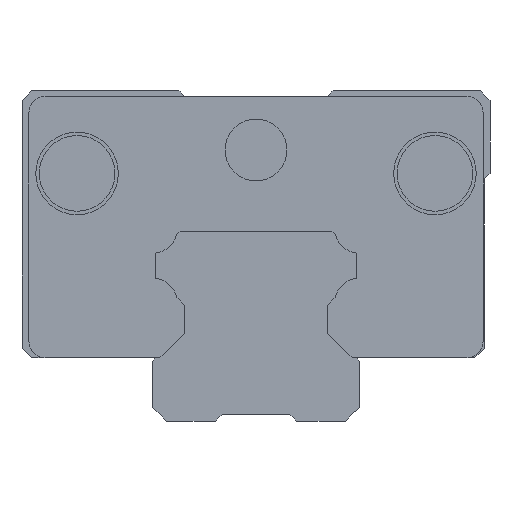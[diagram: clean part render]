
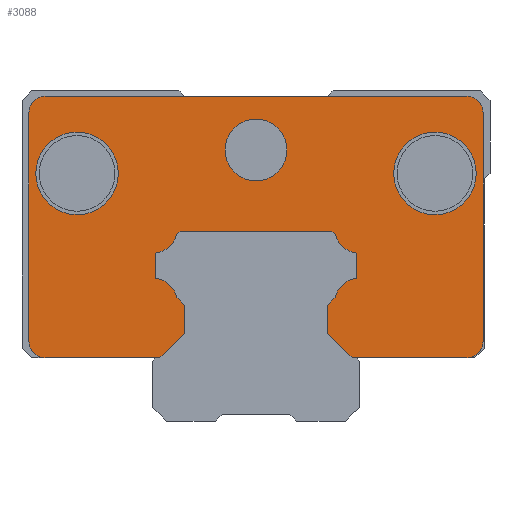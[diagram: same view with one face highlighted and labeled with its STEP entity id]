
A CAD part, left-side view. The second image highlights one B-rep face of the part: STEP entity #3088.
In plain terms, the highlighted planar face has unit normal (-1, 0, 0).
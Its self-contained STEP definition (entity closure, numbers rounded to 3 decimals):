
#2743=CARTESIAN_POINT('',(0.0,-10.0,18.));
#2744=VERTEX_POINT('',#2743);
#2745=CARTESIAN_POINT('',(0.0,-13.0,18.));
#2746=DIRECTION('',(1.0,0.0,0.0));
#2747=DIRECTION('',(0.0,-1.0,0.0));
#2748=AXIS2_PLACEMENT_3D('',#2745,#2746,#2747);
#2749=CIRCLE('',#2748,3.);
#2750=EDGE_CURVE('',#2744,#2744,#2749,.T.);
#2783=CARTESIAN_POINT('',(0.0,2.25,19.7));
#2784=VERTEX_POINT('',#2783);
#2785=CARTESIAN_POINT('',(0.0,0.,19.7));
#2786=DIRECTION('',(1.0,0.0,0.0));
#2787=DIRECTION('',(0.0,-1.0,0.0));
#2788=AXIS2_PLACEMENT_3D('',#2785,#2786,#2787);
#2789=CIRCLE('',#2788,2.25);
#2790=EDGE_CURVE('',#2784,#2784,#2789,.T.);
#2848=CARTESIAN_POINT('',(0.0,16.,18.));
#2849=VERTEX_POINT('',#2848);
#2850=CARTESIAN_POINT('',(0.0,13.,18.));
#2851=DIRECTION('',(1.0,0.0,0.0));
#2852=DIRECTION('',(0.0,-1.0,0.0));
#2853=AXIS2_PLACEMENT_3D('',#2850,#2851,#2852);
#2854=CIRCLE('',#2853,3.);
#2855=EDGE_CURVE('',#2849,#2849,#2854,.T.);
#2872=CARTESIAN_POINT('',(0.0,0.,14.219));
#2873=DIRECTION('',(1.0,0.0,0.0));
#2874=DIRECTION('',(0.0,0.0,-1.0));
#2875=AXIS2_PLACEMENT_3D('',#2872,#2873,#2874);
#2876=PLANE('',#2875);
#2877=CARTESIAN_POINT('',(0.0,-16.5,5.8));
#2878=VERTEX_POINT('',#2877);
#2879=CARTESIAN_POINT('',(0.0,-15.3,4.6));
#2880=VERTEX_POINT('',#2879);
#2881=CARTESIAN_POINT('',(0.0,-15.3,5.8));
#2882=DIRECTION('',(1.0,0.0,0.0));
#2883=DIRECTION('',(0.0,-1.0,0.0));
#2884=AXIS2_PLACEMENT_3D('',#2881,#2882,#2883);
#2885=CIRCLE('',#2884,1.2);
#2886=EDGE_CURVE('',#2878,#2880,#2885,.T.);
#2887=ORIENTED_EDGE('',*,*,#2886,.F.);
#2888=CARTESIAN_POINT('',(0.0,-16.5,22.4));
#2889=VERTEX_POINT('',#2888);
#2890=CARTESIAN_POINT('',(0.0,-16.5,22.4));
#2891=DIRECTION('',(0.0,0.0,-1.0));
#2892=VECTOR('',#2891,16.6);
#2893=LINE('',#2890,#2892);
#2894=EDGE_CURVE('',#2889,#2878,#2893,.T.);
#2895=ORIENTED_EDGE('',*,*,#2894,.F.);
#2896=CARTESIAN_POINT('',(0.0,-15.3,23.6));
#2897=VERTEX_POINT('',#2896);
#2898=CARTESIAN_POINT('',(0.0,-15.3,22.4));
#2899=DIRECTION('',(1.0,0.0,0.0));
#2900=DIRECTION('',(0.0,0.0,1.0));
#2901=AXIS2_PLACEMENT_3D('',#2898,#2899,#2900);
#2902=CIRCLE('',#2901,1.2);
#2903=EDGE_CURVE('',#2897,#2889,#2902,.T.);
#2904=ORIENTED_EDGE('',*,*,#2903,.F.);
#2905=CARTESIAN_POINT('',(0.0,15.3,23.6));
#2906=VERTEX_POINT('',#2905);
#2907=CARTESIAN_POINT('',(0.0,15.3,23.6));
#2908=DIRECTION('',(0.0,-1.0,0.0));
#2909=VECTOR('',#2908,30.6);
#2910=LINE('',#2907,#2909);
#2911=EDGE_CURVE('',#2906,#2897,#2910,.T.);
#2912=ORIENTED_EDGE('',*,*,#2911,.F.);
#2913=CARTESIAN_POINT('',(0.0,16.5,22.4));
#2914=VERTEX_POINT('',#2913);
#2915=CARTESIAN_POINT('',(0.0,15.3,22.4));
#2916=DIRECTION('',(1.0,0.0,0.0));
#2917=DIRECTION('',(0.0,1.,0.));
#2918=AXIS2_PLACEMENT_3D('',#2915,#2916,#2917);
#2919=CIRCLE('',#2918,1.2);
#2920=EDGE_CURVE('',#2914,#2906,#2919,.T.);
#2921=ORIENTED_EDGE('',*,*,#2920,.F.);
#2922=CARTESIAN_POINT('',(0.0,16.5,5.8));
#2923=VERTEX_POINT('',#2922);
#2924=CARTESIAN_POINT('',(0.0,16.5,5.8));
#2925=DIRECTION('',(0.0,0.0,1.0));
#2926=VECTOR('',#2925,16.6);
#2927=LINE('',#2924,#2926);
#2928=EDGE_CURVE('',#2923,#2914,#2927,.T.);
#2929=ORIENTED_EDGE('',*,*,#2928,.F.);
#2930=CARTESIAN_POINT('',(0.0,15.3,4.6));
#2931=VERTEX_POINT('',#2930);
#2932=CARTESIAN_POINT('',(0.0,15.3,5.8));
#2933=DIRECTION('',(1.0,0.0,0.0));
#2934=DIRECTION('',(0.0,0.0,-1.0));
#2935=AXIS2_PLACEMENT_3D('',#2932,#2933,#2934);
#2936=CIRCLE('',#2935,1.2);
#2937=EDGE_CURVE('',#2931,#2923,#2936,.T.);
#2938=ORIENTED_EDGE('',*,*,#2937,.F.);
#2939=CARTESIAN_POINT('',(0.0,6.976,4.6));
#2940=VERTEX_POINT('',#2939);
#2941=CARTESIAN_POINT('',(0.0,6.976,4.6));
#2942=DIRECTION('',(0.0,1.0,0.0));
#2943=VECTOR('',#2942,8.324);
#2944=LINE('',#2941,#2943);
#2945=EDGE_CURVE('',#2940,#2931,#2944,.T.);
#2946=ORIENTED_EDGE('',*,*,#2945,.F.);
#2947=CARTESIAN_POINT('',(0.0,5.2,6.376));
#2948=VERTEX_POINT('',#2947);
#2949=CARTESIAN_POINT('',(0.0,5.2,6.376));
#2950=DIRECTION('',(0.0,0.707,-0.707));
#2951=VECTOR('',#2950,2.511);
#2952=LINE('',#2949,#2951);
#2953=EDGE_CURVE('',#2948,#2940,#2952,.T.);
#2954=ORIENTED_EDGE('',*,*,#2953,.F.);
#2955=CARTESIAN_POINT('',(0.0,5.2,8.424));
#2956=VERTEX_POINT('',#2955);
#2957=CARTESIAN_POINT('',(0.0,5.2,8.424));
#2958=DIRECTION('',(0.0,0.0,-1.0));
#2959=VECTOR('',#2958,2.049);
#2960=LINE('',#2957,#2959);
#2961=EDGE_CURVE('',#2956,#2948,#2960,.T.);
#2962=ORIENTED_EDGE('',*,*,#2961,.F.);
#2963=CARTESIAN_POINT('',(0.0,5.74,8.964));
#2964=VERTEX_POINT('',#2963);
#2965=CARTESIAN_POINT('',(0.0,5.74,8.964));
#2966=DIRECTION('',(0.0,-0.707,-0.707));
#2967=VECTOR('',#2966,0.763);
#2968=LINE('',#2965,#2967);
#2969=EDGE_CURVE('',#2964,#2956,#2968,.T.);
#2970=ORIENTED_EDGE('',*,*,#2969,.F.);
#2971=CARTESIAN_POINT('',(0.0,7.3,10.39));
#2972=VERTEX_POINT('',#2971);
#2973=CARTESIAN_POINT('',(0.0,7.545,8.555));
#2974=DIRECTION('',(1.0,0.0,0.0));
#2975=DIRECTION('',(0.0,-0.132,0.991));
#2976=AXIS2_PLACEMENT_3D('',#2973,#2974,#2975);
#2977=CIRCLE('',#2976,1.851);
#2978=EDGE_CURVE('',#2972,#2964,#2977,.T.);
#2979=ORIENTED_EDGE('',*,*,#2978,.F.);
#2980=CARTESIAN_POINT('',(0.0,7.3,12.21));
#2981=VERTEX_POINT('',#2980);
#2982=CARTESIAN_POINT('',(0.0,7.3,12.21));
#2983=DIRECTION('',(0.0,0.0,-1.0));
#2984=VECTOR('',#2983,1.82);
#2985=LINE('',#2982,#2984);
#2986=EDGE_CURVE('',#2981,#2972,#2985,.T.);
#2987=ORIENTED_EDGE('',*,*,#2986,.F.);
#2988=CARTESIAN_POINT('',(0.0,5.759,13.558));
#2989=VERTEX_POINT('',#2988);
#2990=CARTESIAN_POINT('',(0.0,7.545,14.045));
#2991=DIRECTION('',(1.0,0.0,0.0));
#2992=DIRECTION('',(0.0,-0.965,-0.263));
#2993=AXIS2_PLACEMENT_3D('',#2990,#2991,#2992);
#2994=CIRCLE('',#2993,1.851);
#2995=EDGE_CURVE('',#2989,#2981,#2994,.T.);
#2996=ORIENTED_EDGE('',*,*,#2995,.F.);
#2997=CARTESIAN_POINT('',(0.0,5.517,13.8));
#2998=VERTEX_POINT('',#2997);
#2999=CARTESIAN_POINT('',(0.0,5.517,13.8));
#3000=DIRECTION('',(0.0,0.707,-0.707));
#3001=VECTOR('',#3000,0.342);
#3002=LINE('',#2999,#3001);
#3003=EDGE_CURVE('',#2998,#2989,#3002,.T.);
#3004=ORIENTED_EDGE('',*,*,#3003,.F.);
#3005=CARTESIAN_POINT('',(0.0,-5.517,13.8));
#3006=VERTEX_POINT('',#3005);
#3007=CARTESIAN_POINT('',(0.0,-5.517,13.8));
#3008=DIRECTION('',(0.0,1.0,0.0));
#3009=VECTOR('',#3008,11.034);
#3010=LINE('',#3007,#3009);
#3011=EDGE_CURVE('',#3006,#2998,#3010,.T.);
#3012=ORIENTED_EDGE('',*,*,#3011,.F.);
#3013=CARTESIAN_POINT('',(0.0,-5.759,13.558));
#3014=VERTEX_POINT('',#3013);
#3015=CARTESIAN_POINT('',(0.0,-5.759,13.558));
#3016=DIRECTION('',(0.0,0.707,0.707));
#3017=VECTOR('',#3016,0.342);
#3018=LINE('',#3015,#3017);
#3019=EDGE_CURVE('',#3014,#3006,#3018,.T.);
#3020=ORIENTED_EDGE('',*,*,#3019,.F.);
#3021=CARTESIAN_POINT('',(0.0,-7.3,12.21));
#3022=VERTEX_POINT('',#3021);
#3023=CARTESIAN_POINT('',(0.0,-7.545,14.045));
#3024=DIRECTION('',(1.,0.0,0.0));
#3025=DIRECTION('',(0.0,0.132,-0.991));
#3026=AXIS2_PLACEMENT_3D('',#3023,#3024,#3025);
#3027=CIRCLE('',#3026,1.851);
#3028=EDGE_CURVE('',#3022,#3014,#3027,.T.);
#3029=ORIENTED_EDGE('',*,*,#3028,.F.);
#3030=CARTESIAN_POINT('',(0.0,-7.3,10.39));
#3031=VERTEX_POINT('',#3030);
#3032=CARTESIAN_POINT('',(0.0,-7.3,10.39));
#3033=DIRECTION('',(0.0,0.0,1.0));
#3034=VECTOR('',#3033,1.82);
#3035=LINE('',#3032,#3034);
#3036=EDGE_CURVE('',#3031,#3022,#3035,.T.);
#3037=ORIENTED_EDGE('',*,*,#3036,.F.);
#3038=CARTESIAN_POINT('',(0.0,-5.74,8.964));
#3039=VERTEX_POINT('',#3038);
#3040=CARTESIAN_POINT('',(0.0,-7.545,8.555));
#3041=DIRECTION('',(1.,0.0,0.0));
#3042=DIRECTION('',(0.0,0.975,0.221));
#3043=AXIS2_PLACEMENT_3D('',#3040,#3041,#3042);
#3044=CIRCLE('',#3043,1.851);
#3045=EDGE_CURVE('',#3039,#3031,#3044,.T.);
#3046=ORIENTED_EDGE('',*,*,#3045,.F.);
#3047=CARTESIAN_POINT('',(0.0,-5.2,8.424));
#3048=VERTEX_POINT('',#3047);
#3049=CARTESIAN_POINT('',(0.0,-5.2,8.424));
#3050=DIRECTION('',(0.0,-0.707,0.707));
#3051=VECTOR('',#3050,0.763);
#3052=LINE('',#3049,#3051);
#3053=EDGE_CURVE('',#3048,#3039,#3052,.T.);
#3054=ORIENTED_EDGE('',*,*,#3053,.F.);
#3055=CARTESIAN_POINT('',(0.0,-5.2,6.376));
#3056=VERTEX_POINT('',#3055);
#3057=CARTESIAN_POINT('',(0.0,-5.2,6.376));
#3058=DIRECTION('',(0.0,0.0,1.0));
#3059=VECTOR('',#3058,2.049);
#3060=LINE('',#3057,#3059);
#3061=EDGE_CURVE('',#3056,#3048,#3060,.T.);
#3062=ORIENTED_EDGE('',*,*,#3061,.F.);
#3063=CARTESIAN_POINT('',(0.0,-6.976,4.6));
#3064=VERTEX_POINT('',#3063);
#3065=CARTESIAN_POINT('',(0.0,-6.976,4.6));
#3066=DIRECTION('',(0.0,0.707,0.707));
#3067=VECTOR('',#3066,2.511);
#3068=LINE('',#3065,#3067);
#3069=EDGE_CURVE('',#3064,#3056,#3068,.T.);
#3070=ORIENTED_EDGE('',*,*,#3069,.F.);
#3071=CARTESIAN_POINT('',(0.0,-15.3,4.6));
#3072=DIRECTION('',(0.0,1.0,0.0));
#3073=VECTOR('',#3072,8.324);
#3074=LINE('',#3071,#3073);
#3075=EDGE_CURVE('',#2880,#3064,#3074,.T.);
#3076=ORIENTED_EDGE('',*,*,#3075,.F.);
#3077=EDGE_LOOP('',(#2887,#2895,#2904,#2912,#2921,#2929,#2938,#2946,#2954,#2962,#2970,#2979,#2987,#2996,#3004,#3012,#3020,#3029,#3037,#3046,#3054,#3062,#3070,#3076));
#3078=FACE_OUTER_BOUND('',#3077,.T.);
#3079=ORIENTED_EDGE('',*,*,#2750,.T.);
#3080=EDGE_LOOP('',(#3079));
#3081=FACE_BOUND('',#3080,.T.);
#3082=ORIENTED_EDGE('',*,*,#2790,.T.);
#3083=EDGE_LOOP('',(#3082));
#3084=FACE_BOUND('',#3083,.T.);
#3085=ORIENTED_EDGE('',*,*,#2855,.T.);
#3086=EDGE_LOOP('',(#3085));
#3087=FACE_BOUND('',#3086,.T.);
#3088=ADVANCED_FACE('',(#3078,#3081,#3084,#3087),#2876,.F.);
